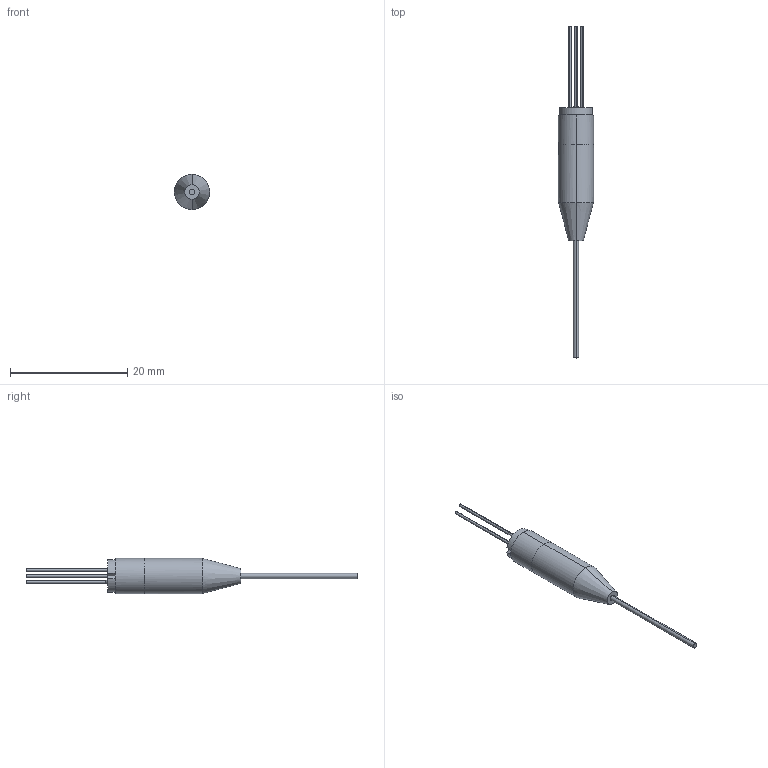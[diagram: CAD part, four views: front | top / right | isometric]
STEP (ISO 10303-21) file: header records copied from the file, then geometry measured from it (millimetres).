
FILE_DESCRIPTION (( 'STEP AP214' ), '1' );
FILE_NAME ('帣玹LD.STEP', '2021-10-09T09:32:44', ( '' ), ( '' ), 'SwSTEP 2.0', 'SolidWorks 2017', '' );
FILE_SCHEMA (( 'AUTOMOTIVE_DESIGN' ));
Length unit declared in the file: millimetre
Products named in the file (2): 帣玹LD
Bounding box: 6 x 56.7 x 6 mm (x, y, z)
Volume: 569.4 mm3; surface area: 604.5 mm2
Topology: 1 solids, 1 shells, 52 faces, 110 edges, 70 vertices
Faces by surface type: cylinder 27, plane 19, cone 4, torus 2
Entity records: 2028 total; most frequent: DIRECTION 272, CARTESIAN_POINT 268, ORIENTED_EDGE 220, AXIS2_PLACEMENT_3D 110, EDGE_CURVE 110, VERTEX_POINT 70, EDGE_LOOP 62, CIRCLE 56
